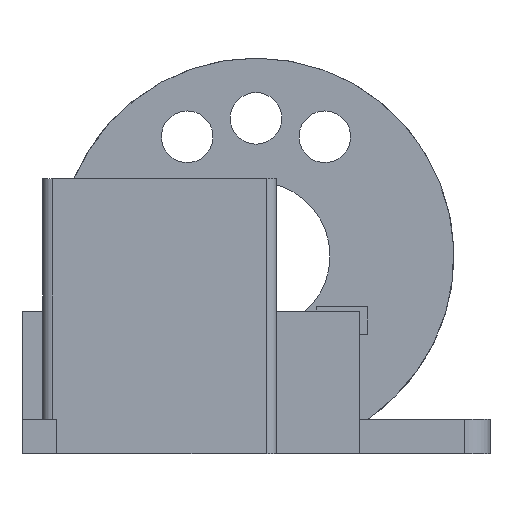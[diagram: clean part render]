
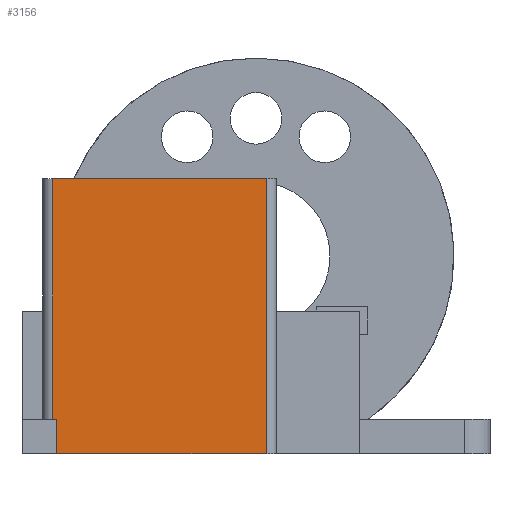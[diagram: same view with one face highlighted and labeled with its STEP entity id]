
A CAD part, left-side view. The second image highlights one B-rep face of the part: STEP entity #3156.
In plain terms, the highlighted planar face has unit normal (-1, 0, 0).
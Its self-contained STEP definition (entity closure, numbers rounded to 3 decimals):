
#44 = PLANE('',#45);
#45 = AXIS2_PLACEMENT_3D('',#46,#47,#48);
#46 = CARTESIAN_POINT('',(0.,0.,0.));
#47 = DIRECTION('',(0.,0.,1.));
#48 = DIRECTION('',(1.,0.,-0.));
#842 = VERTEX_POINT('',#843);
#843 = CARTESIAN_POINT('',(-18.1,11.6,0.));
#857 = PLANE('',#858);
#858 = AXIS2_PLACEMENT_3D('',#859,#860,#861);
#859 = CARTESIAN_POINT('',(-18.7,11.6,0.));
#860 = DIRECTION('',(-0.,1.,0.));
#861 = DIRECTION('',(0.,0.,1.));
#869 = EDGE_CURVE('',#870,#842,#872,.T.);
#870 = VERTEX_POINT('',#871);
#871 = CARTESIAN_POINT('',(-18.1,-0.6,0.));
#872 = SURFACE_CURVE('',#873,(#877,#884),.PCURVE_S1.);
#873 = LINE('',#874,#875);
#874 = CARTESIAN_POINT('',(-18.1,5.6,0.));
#875 = VECTOR('',#876,1.);
#876 = DIRECTION('',(0.,1.,0.));
#877 = PCURVE('',#44,#878);
#878 = DEFINITIONAL_REPRESENTATION('',(#879),#883);
#879 = LINE('',#880,#881);
#880 = CARTESIAN_POINT('',(-18.1,5.6));
#881 = VECTOR('',#882,1.);
#882 = DIRECTION('',(0.,1.));
#883 = ( GEOMETRIC_REPRESENTATION_CONTEXT(2) 
PARAMETRIC_REPRESENTATION_CONTEXT() REPRESENTATION_CONTEXT('2D SPACE',''
  ) );
#884 = PCURVE('',#885,#890);
#885 = PLANE('',#886);
#886 = AXIS2_PLACEMENT_3D('',#887,#888,#889);
#887 = CARTESIAN_POINT('',(-18.1,-0.6,0.));
#888 = DIRECTION('',(-1.,0.,0.));
#889 = DIRECTION('',(0.,1.,0.));
#890 = DEFINITIONAL_REPRESENTATION('',(#891),#895);
#891 = LINE('',#892,#893);
#892 = CARTESIAN_POINT('',(6.2,0.));
#893 = VECTOR('',#894,1.);
#894 = DIRECTION('',(1.,0.));
#895 = ( GEOMETRIC_REPRESENTATION_CONTEXT(2) 
PARAMETRIC_REPRESENTATION_CONTEXT() REPRESENTATION_CONTEXT('2D SPACE',''
  ) );
#914 = CYLINDRICAL_SURFACE('',#915,0.6);
#915 = AXIS2_PLACEMENT_3D('',#916,#917,#918);
#916 = CARTESIAN_POINT('',(-17.5,-0.6,0.));
#917 = DIRECTION('',(-0.,-0.,-1.));
#918 = DIRECTION('',(1.,0.,0.));
#2641 = PLANE('',#2642);
#2642 = AXIS2_PLACEMENT_3D('',#2643,#2644,#2645);
#2643 = CARTESIAN_POINT('',(-17.2,5.6,16.));
#2644 = DIRECTION('',(0.,0.,1.));
#2645 = DIRECTION('',(1.,0.,-0.));
#2974 = EDGE_CURVE('',#870,#2975,#2977,.T.);
#2975 = VERTEX_POINT('',#2976);
#2976 = CARTESIAN_POINT('',(-18.1,-0.6,16.));
#2977 = SURFACE_CURVE('',#2978,(#2982,#2989),.PCURVE_S1.);
#2978 = LINE('',#2979,#2980);
#2979 = CARTESIAN_POINT('',(-18.1,-0.6,0.));
#2980 = VECTOR('',#2981,1.);
#2981 = DIRECTION('',(0.,0.,1.));
#2982 = PCURVE('',#914,#2983);
#2983 = DEFINITIONAL_REPRESENTATION('',(#2984),#2988);
#2984 = LINE('',#2985,#2986);
#2985 = CARTESIAN_POINT('',(-3.142,0.));
#2986 = VECTOR('',#2987,1.);
#2987 = DIRECTION('',(-0.,-1.));
#2988 = ( GEOMETRIC_REPRESENTATION_CONTEXT(2) 
PARAMETRIC_REPRESENTATION_CONTEXT() REPRESENTATION_CONTEXT('2D SPACE',''
  ) );
#2989 = PCURVE('',#885,#2990);
#2990 = DEFINITIONAL_REPRESENTATION('',(#2991),#2995);
#2991 = LINE('',#2992,#2993);
#2992 = CARTESIAN_POINT('',(0.,0.));
#2993 = VECTOR('',#2994,1.);
#2994 = DIRECTION('',(0.,-1.));
#2995 = ( GEOMETRIC_REPRESENTATION_CONTEXT(2) 
PARAMETRIC_REPRESENTATION_CONTEXT() REPRESENTATION_CONTEXT('2D SPACE',''
  ) );
#3156 = ADVANCED_FACE('',(#3157),#885,.T.);
#3157 = FACE_BOUND('',#3158,.T.);
#3158 = EDGE_LOOP('',(#3159,#3160,#3161,#3184,#3212,#3238));
#3159 = ORIENTED_EDGE('',*,*,#869,.F.);
#3160 = ORIENTED_EDGE('',*,*,#2974,.T.);
#3161 = ORIENTED_EDGE('',*,*,#3162,.T.);
#3162 = EDGE_CURVE('',#2975,#3163,#3165,.T.);
#3163 = VERTEX_POINT('',#3164);
#3164 = CARTESIAN_POINT('',(-18.1,11.8,16.));
#3165 = SURFACE_CURVE('',#3166,(#3170,#3177),.PCURVE_S1.);
#3166 = LINE('',#3167,#3168);
#3167 = CARTESIAN_POINT('',(-18.1,5.6,16.));
#3168 = VECTOR('',#3169,1.);
#3169 = DIRECTION('',(0.,1.,0.));
#3170 = PCURVE('',#885,#3171);
#3171 = DEFINITIONAL_REPRESENTATION('',(#3172),#3176);
#3172 = LINE('',#3173,#3174);
#3173 = CARTESIAN_POINT('',(6.2,-16.));
#3174 = VECTOR('',#3175,1.);
#3175 = DIRECTION('',(1.,0.));
#3176 = ( GEOMETRIC_REPRESENTATION_CONTEXT(2) 
PARAMETRIC_REPRESENTATION_CONTEXT() REPRESENTATION_CONTEXT('2D SPACE',''
  ) );
#3177 = PCURVE('',#2641,#3178);
#3178 = DEFINITIONAL_REPRESENTATION('',(#3179),#3183);
#3179 = LINE('',#3180,#3181);
#3180 = CARTESIAN_POINT('',(-0.9,0.));
#3181 = VECTOR('',#3182,1.);
#3182 = DIRECTION('',(0.,1.));
#3183 = ( GEOMETRIC_REPRESENTATION_CONTEXT(2) 
PARAMETRIC_REPRESENTATION_CONTEXT() REPRESENTATION_CONTEXT('2D SPACE',''
  ) );
#3184 = ORIENTED_EDGE('',*,*,#3185,.F.);
#3185 = EDGE_CURVE('',#3186,#3163,#3188,.T.);
#3186 = VERTEX_POINT('',#3187);
#3187 = CARTESIAN_POINT('',(-18.1,11.8,2.));
#3188 = SURFACE_CURVE('',#3189,(#3193,#3200),.PCURVE_S1.);
#3189 = LINE('',#3190,#3191);
#3190 = CARTESIAN_POINT('',(-18.1,11.8,0.));
#3191 = VECTOR('',#3192,1.);
#3192 = DIRECTION('',(0.,0.,1.));
#3193 = PCURVE('',#885,#3194);
#3194 = DEFINITIONAL_REPRESENTATION('',(#3195),#3199);
#3195 = LINE('',#3196,#3197);
#3196 = CARTESIAN_POINT('',(12.4,0.));
#3197 = VECTOR('',#3198,1.);
#3198 = DIRECTION('',(0.,-1.));
#3199 = ( GEOMETRIC_REPRESENTATION_CONTEXT(2) 
PARAMETRIC_REPRESENTATION_CONTEXT() REPRESENTATION_CONTEXT('2D SPACE',''
  ) );
#3200 = PCURVE('',#3201,#3206);
#3201 = CYLINDRICAL_SURFACE('',#3202,0.6);
#3202 = AXIS2_PLACEMENT_3D('',#3203,#3204,#3205);
#3203 = CARTESIAN_POINT('',(-17.5,11.8,0.));
#3204 = DIRECTION('',(-0.,-0.,-1.));
#3205 = DIRECTION('',(1.,0.,0.));
#3206 = DEFINITIONAL_REPRESENTATION('',(#3207),#3211);
#3207 = LINE('',#3208,#3209);
#3208 = CARTESIAN_POINT('',(-3.142,0.));
#3209 = VECTOR('',#3210,1.);
#3210 = DIRECTION('',(-0.,-1.));
#3211 = ( GEOMETRIC_REPRESENTATION_CONTEXT(2) 
PARAMETRIC_REPRESENTATION_CONTEXT() REPRESENTATION_CONTEXT('2D SPACE',''
  ) );
#3212 = ORIENTED_EDGE('',*,*,#3213,.F.);
#3213 = EDGE_CURVE('',#3214,#3186,#3216,.T.);
#3214 = VERTEX_POINT('',#3215);
#3215 = CARTESIAN_POINT('',(-18.1,11.6,2.));
#3216 = SURFACE_CURVE('',#3217,(#3221,#3227),.PCURVE_S1.);
#3217 = LINE('',#3218,#3219);
#3218 = CARTESIAN_POINT('',(-18.1,5.5,2.));
#3219 = VECTOR('',#3220,1.);
#3220 = DIRECTION('',(0.,1.,-0.));
#3221 = PCURVE('',#885,#3222);
#3222 = DEFINITIONAL_REPRESENTATION('',(#3223),#3226);
#3223 = B_SPLINE_CURVE_WITH_KNOTS('',1,(#3224,#3225),.UNSPECIFIED.,.F.,
  .F.,(2,2),(6.1,6.3),.PIECEWISE_BEZIER_KNOTS.);
#3224 = CARTESIAN_POINT('',(12.2,-2.));
#3225 = CARTESIAN_POINT('',(12.4,-2.));
#3226 = ( GEOMETRIC_REPRESENTATION_CONTEXT(2) 
PARAMETRIC_REPRESENTATION_CONTEXT() REPRESENTATION_CONTEXT('2D SPACE',''
  ) );
#3227 = PCURVE('',#3228,#3233);
#3228 = PLANE('',#3229);
#3229 = AXIS2_PLACEMENT_3D('',#3230,#3231,#3232);
#3230 = CARTESIAN_POINT('',(-18.7,11.6,2.));
#3231 = DIRECTION('',(0.,0.,1.));
#3232 = DIRECTION('',(1.,0.,-0.));
#3233 = DEFINITIONAL_REPRESENTATION('',(#3234),#3237);
#3234 = B_SPLINE_CURVE_WITH_KNOTS('',1,(#3235,#3236),.UNSPECIFIED.,.F.,
  .F.,(2,2),(6.1,6.3),.PIECEWISE_BEZIER_KNOTS.);
#3235 = CARTESIAN_POINT('',(0.6,0.));
#3236 = CARTESIAN_POINT('',(0.6,0.2));
#3237 = ( GEOMETRIC_REPRESENTATION_CONTEXT(2) 
PARAMETRIC_REPRESENTATION_CONTEXT() REPRESENTATION_CONTEXT('2D SPACE',''
  ) );
#3238 = ORIENTED_EDGE('',*,*,#3239,.T.);
#3239 = EDGE_CURVE('',#3214,#842,#3240,.T.);
#3240 = SURFACE_CURVE('',#3241,(#3245,#3251),.PCURVE_S1.);
#3241 = LINE('',#3242,#3243);
#3242 = CARTESIAN_POINT('',(-18.1,11.6,0.));
#3243 = VECTOR('',#3244,1.);
#3244 = DIRECTION('',(0.,0.,-1.));
#3245 = PCURVE('',#885,#3246);
#3246 = DEFINITIONAL_REPRESENTATION('',(#3247),#3250);
#3247 = B_SPLINE_CURVE_WITH_KNOTS('',1,(#3248,#3249),.UNSPECIFIED.,.F.,
  .F.,(2,2),(-2.,0.),.PIECEWISE_BEZIER_KNOTS.);
#3248 = CARTESIAN_POINT('',(12.2,-2.));
#3249 = CARTESIAN_POINT('',(12.2,0.));
#3250 = ( GEOMETRIC_REPRESENTATION_CONTEXT(2) 
PARAMETRIC_REPRESENTATION_CONTEXT() REPRESENTATION_CONTEXT('2D SPACE',''
  ) );
#3251 = PCURVE('',#857,#3252);
#3252 = DEFINITIONAL_REPRESENTATION('',(#3253),#3256);
#3253 = B_SPLINE_CURVE_WITH_KNOTS('',1,(#3254,#3255),.UNSPECIFIED.,.F.,
  .F.,(2,2),(-2.,0.),.PIECEWISE_BEZIER_KNOTS.);
#3254 = CARTESIAN_POINT('',(2.,0.6));
#3255 = CARTESIAN_POINT('',(0.,0.6));
#3256 = ( GEOMETRIC_REPRESENTATION_CONTEXT(2) 
PARAMETRIC_REPRESENTATION_CONTEXT() REPRESENTATION_CONTEXT('2D SPACE',''
  ) );
